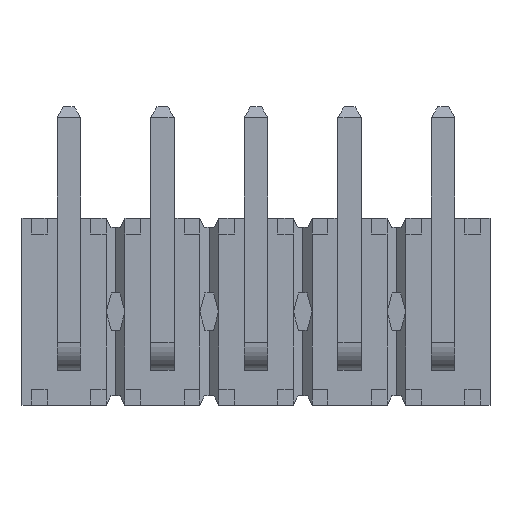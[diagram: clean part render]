
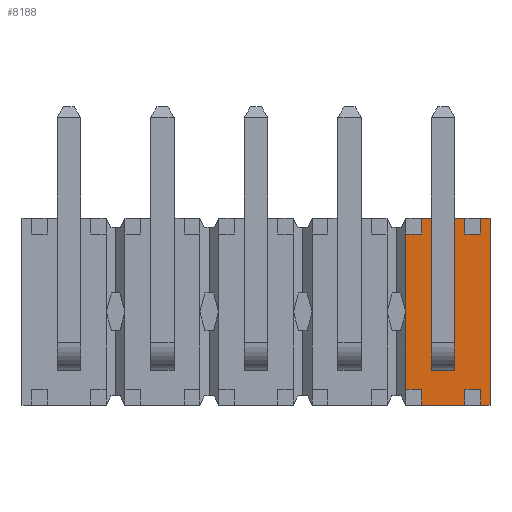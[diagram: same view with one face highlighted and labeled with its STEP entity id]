
A CAD part, front view. The second image highlights one B-rep face of the part: STEP entity #8188.
In plain terms, the highlighted planar face has unit normal (0, -1, 0).
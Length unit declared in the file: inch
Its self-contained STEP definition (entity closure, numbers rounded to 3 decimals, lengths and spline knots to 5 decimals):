
#879=ORIENTED_EDGE('',*,*,#2985,.T.);
#880=ORIENTED_EDGE('',*,*,#2654,.T.);
#881=ORIENTED_EDGE('',*,*,#2816,.T.);
#882=ORIENTED_EDGE('',*,*,#2987,.T.);
#883=ORIENTED_EDGE('',*,*,#2855,.F.);
#884=ORIENTED_EDGE('',*,*,#2650,.T.);
#885=ORIENTED_EDGE('',*,*,#2860,.T.);
#886=ORIENTED_EDGE('',*,*,#2988,.T.);
#887=ORIENTED_EDGE('',*,*,#2564,.F.);
#888=ORIENTED_EDGE('',*,*,#2568,.F.);
#889=ORIENTED_EDGE('',*,*,#2989,.F.);
#890=ORIENTED_EDGE('',*,*,#2861,.T.);
#891=ORIENTED_EDGE('',*,*,#2735,.T.);
#892=ORIENTED_EDGE('',*,*,#2858,.F.);
#893=ORIENTED_EDGE('',*,*,#2990,.F.);
#894=ORIENTED_EDGE('',*,*,#2817,.T.);
#895=ORIENTED_EDGE('',*,*,#2731,.T.);
#896=ORIENTED_EDGE('',*,*,#2963,.F.);
#897=ORIENTED_EDGE('',*,*,#2870,.F.);
#898=ORIENTED_EDGE('',*,*,#2867,.F.);
#899=ORIENTED_EDGE('',*,*,#2864,.F.);
#900=ORIENTED_EDGE('',*,*,#2965,.F.);
#901=ORIENTED_EDGE('',*,*,#2880,.F.);
#902=ORIENTED_EDGE('',*,*,#2877,.F.);
#903=ORIENTED_EDGE('',*,*,#2874,.F.);
#2564=EDGE_CURVE('',#3720,#3721,#4484,.T.);
#2568=EDGE_CURVE('',#3724,#3720,#4488,.T.);
#2650=EDGE_CURVE('',#3791,#3790,#4570,.T.);
#2654=EDGE_CURVE('',#3795,#3794,#4574,.T.);
#2731=EDGE_CURVE('',#3844,#3843,#4651,.T.);
#2735=EDGE_CURVE('',#3848,#3847,#4655,.T.);
#2816=EDGE_CURVE('',#3794,#3891,#4736,.T.);
#2817=EDGE_CURVE('',#3892,#3844,#4737,.T.);
#2855=EDGE_CURVE('',#3791,#3911,#4775,.T.);
#2858=EDGE_CURVE('',#3912,#3847,#4778,.T.);
#2860=EDGE_CURVE('',#3790,#3913,#4780,.T.);
#2861=EDGE_CURVE('',#3914,#3848,#4781,.T.);
#2864=EDGE_CURVE('',#3916,#3917,#4784,.T.);
#2867=EDGE_CURVE('',#3917,#3919,#4787,.T.);
#2870=EDGE_CURVE('',#3919,#3921,#4790,.T.);
#2874=EDGE_CURVE('',#3924,#3925,#4794,.T.);
#2877=EDGE_CURVE('',#3925,#3927,#4797,.T.);
#2880=EDGE_CURVE('',#3927,#3929,#4800,.T.);
#2963=EDGE_CURVE('',#3921,#3916,#4883,.T.);
#2965=EDGE_CURVE('',#3929,#3924,#4885,.T.);
#2985=EDGE_CURVE('',#3843,#3795,#4905,.T.);
#2987=EDGE_CURVE('',#3891,#3911,#4907,.T.);
#2988=EDGE_CURVE('',#3913,#3721,#4908,.T.);
#2989=EDGE_CURVE('',#3914,#3724,#4909,.T.);
#2990=EDGE_CURVE('',#3892,#3912,#4910,.T.);
#3720=VERTEX_POINT('',#11365);
#3721=VERTEX_POINT('',#11367);
#3724=VERTEX_POINT('',#11375);
#3790=VERTEX_POINT('',#11534);
#3791=VERTEX_POINT('',#11536);
#3794=VERTEX_POINT('',#11542);
#3795=VERTEX_POINT('',#11544);
#3843=VERTEX_POINT('',#11676);
#3844=VERTEX_POINT('',#11678);
#3847=VERTEX_POINT('',#11684);
#3848=VERTEX_POINT('',#11686);
#3891=VERTEX_POINT('',#11846);
#3892=VERTEX_POINT('',#11850);
#3911=VERTEX_POINT('',#11926);
#3912=VERTEX_POINT('',#11930);
#3913=VERTEX_POINT('',#11934);
#3914=VERTEX_POINT('',#11938);
#3916=VERTEX_POINT('',#11943);
#3917=VERTEX_POINT('',#11945);
#3919=VERTEX_POINT('',#11951);
#3921=VERTEX_POINT('',#11957);
#3924=VERTEX_POINT('',#11964);
#3925=VERTEX_POINT('',#11966);
#3927=VERTEX_POINT('',#11972);
#3929=VERTEX_POINT('',#11978);
#4484=LINE('',#11366,#5620);
#4488=LINE('',#11374,#5624);
#4570=LINE('',#11535,#5706);
#4574=LINE('',#11543,#5710);
#4651=LINE('',#11677,#5787);
#4655=LINE('',#11685,#5791);
#4736=LINE('',#11847,#5872);
#4737=LINE('',#11849,#5873);
#4775=LINE('',#11925,#5911);
#4778=LINE('',#11931,#5914);
#4780=LINE('',#11935,#5916);
#4781=LINE('',#11937,#5917);
#4784=LINE('',#11944,#5920);
#4787=LINE('',#11950,#5923);
#4790=LINE('',#11956,#5926);
#4794=LINE('',#11965,#5930);
#4797=LINE('',#11971,#5933);
#4800=LINE('',#11977,#5936);
#4883=LINE('',#12151,#6019);
#4885=LINE('',#12154,#6021);
#4905=LINE('',#12184,#6041);
#4907=LINE('',#12192,#6043);
#4908=LINE('',#12193,#6044);
#4909=LINE('',#12194,#6045);
#4910=LINE('',#12195,#6046);
#5620=VECTOR('',#9168,39.37008);
#5624=VECTOR('',#9174,39.37008);
#5706=VECTOR('',#9280,39.37008);
#5710=VECTOR('',#9284,39.37008);
#5787=VECTOR('',#9377,39.37008);
#5791=VECTOR('',#9381,39.37008);
#5872=VECTOR('',#9536,39.37008);
#5873=VECTOR('',#9539,39.37008);
#5911=VECTOR('',#9615,39.37008);
#5914=VECTOR('',#9620,39.37008);
#5916=VECTOR('',#9624,39.37008);
#5917=VECTOR('',#9627,39.37008);
#5920=VECTOR('',#9632,39.37008);
#5923=VECTOR('',#9637,39.37008);
#5926=VECTOR('',#9642,39.37008);
#5930=VECTOR('',#9648,39.37008);
#5933=VECTOR('',#9653,39.37008);
#5936=VECTOR('',#9658,39.37008);
#6019=VECTOR('',#9791,39.37008);
#6021=VECTOR('',#9795,39.37008);
#6041=VECTOR('',#9835,39.37008);
#6043=VECTOR('',#9849,39.37008);
#6044=VECTOR('',#9850,39.37008);
#6045=VECTOR('',#9851,39.37008);
#6046=VECTOR('',#9852,39.37008);
#6794=EDGE_LOOP('',(#879,#880,#881,#882,#883,#884,#885,#886,#887,#888,#889,
#890,#891,#892,#893,#894,#895));
#6795=EDGE_LOOP('',(#896,#897,#898,#899));
#6796=EDGE_LOOP('',(#900,#901,#902,#903));
#7282=FACE_BOUND('',#6794,.T.);
#7283=FACE_BOUND('',#6795,.T.);
#7284=FACE_BOUND('',#6796,.T.);
#7760=PLANE('',#8662);
#8188=ADVANCED_FACE('',(#7282,#7283,#7284),#7760,.T.);
#8662=AXIS2_PLACEMENT_3D('',#12191,#9847,#9848);
#9168=DIRECTION('',(0.,0.,1.));
#9174=DIRECTION('',(0.,0.,1.));
#9280=DIRECTION('',(-1.,0.,0.));
#9284=DIRECTION('',(-1.,0.,0.));
#9377=DIRECTION('',(1.,0.,0.));
#9381=DIRECTION('',(1.,0.,0.));
#9536=DIRECTION('',(0.,0.,-1.));
#9539=DIRECTION('',(0.,0.,-1.));
#9615=DIRECTION('',(0.,0.,-1.));
#9620=DIRECTION('',(0.,0.,-1.));
#9624=DIRECTION('',(0.,0.,-1.));
#9627=DIRECTION('',(0.,0.,-1.));
#9632=DIRECTION('',(1.,0.,0.));
#9637=DIRECTION('',(0.,0.,1.));
#9642=DIRECTION('',(-1.,0.,0.));
#9648=DIRECTION('',(1.,0.,0.));
#9653=DIRECTION('',(0.,0.,1.));
#9658=DIRECTION('',(-1.,0.,0.));
#9791=DIRECTION('',(0.,0.,-1.));
#9795=DIRECTION('',(0.,0.,-1.));
#9835=DIRECTION('',(0.,0.,1.));
#9847=DIRECTION('',(0.,-1.,0.));
#9848=DIRECTION('',(0.,0.,-1.));
#9849=DIRECTION('',(-1.,0.,0.));
#9850=DIRECTION('',(-1.,0.,0.));
#9851=DIRECTION('',(-1.,0.,0.));
#9852=DIRECTION('',(-1.,0.,0.));
#11365=CARTESIAN_POINT('',(0.16,0.02,0.));
#11366=CARTESIAN_POINT('',(0.16,0.02,0.5));
#11367=CARTESIAN_POINT('',(0.16,0.02,0.083));
#11374=CARTESIAN_POINT('',(0.16,0.02,0.5));
#11375=CARTESIAN_POINT('',(0.16,0.02,-0.083));
#11534=CARTESIAN_POINT('',(0.17688,0.02,0.1));
#11535=CARTESIAN_POINT('',(-0.25,0.02,0.1));
#11536=CARTESIAN_POINT('',(0.22312,0.02,0.1));
#11542=CARTESIAN_POINT('',(0.24012,0.02,0.1));
#11543=CARTESIAN_POINT('',(-0.25,0.02,0.1));
#11544=CARTESIAN_POINT('',(0.25,0.02,0.1));
#11676=CARTESIAN_POINT('',(0.25,0.02,-0.1));
#11677=CARTESIAN_POINT('',(0.25,0.02,-0.1));
#11678=CARTESIAN_POINT('',(0.24012,0.02,-0.1));
#11684=CARTESIAN_POINT('',(0.22312,0.02,-0.1));
#11685=CARTESIAN_POINT('',(0.25,0.02,-0.1));
#11686=CARTESIAN_POINT('',(0.17688,0.02,-0.1));
#11846=CARTESIAN_POINT('',(0.24012,0.02,0.083));
#11847=CARTESIAN_POINT('',(0.24012,0.02,0.2));
#11849=CARTESIAN_POINT('',(0.24012,0.02,0.2));
#11850=CARTESIAN_POINT('',(0.24012,0.02,-0.083));
#11925=CARTESIAN_POINT('',(0.22312,0.02,0.2));
#11926=CARTESIAN_POINT('',(0.22312,0.02,0.083));
#11930=CARTESIAN_POINT('',(0.22312,0.02,-0.083));
#11931=CARTESIAN_POINT('',(0.22312,0.02,0.2));
#11934=CARTESIAN_POINT('',(0.17688,0.02,0.083));
#11935=CARTESIAN_POINT('',(0.17688,0.02,0.2));
#11937=CARTESIAN_POINT('',(0.17688,0.02,0.2));
#11938=CARTESIAN_POINT('',(0.17688,0.02,-0.083));
#11943=CARTESIAN_POINT('',(0.1875,0.02,0.0375));
#11944=CARTESIAN_POINT('',(0.2125,0.02,0.0375));
#11945=CARTESIAN_POINT('',(0.2125,0.02,0.0375));
#11950=CARTESIAN_POINT('',(0.2125,0.02,0.0625));
#11951=CARTESIAN_POINT('',(0.2125,0.02,0.0625));
#11956=CARTESIAN_POINT('',(0.1875,0.02,0.0625));
#11957=CARTESIAN_POINT('',(0.1875,0.02,0.0625));
#11964=CARTESIAN_POINT('',(0.1875,0.02,-0.0625));
#11965=CARTESIAN_POINT('',(0.2125,0.02,-0.0625));
#11966=CARTESIAN_POINT('',(0.2125,0.02,-0.0625));
#11971=CARTESIAN_POINT('',(0.2125,0.02,-0.0375));
#11972=CARTESIAN_POINT('',(0.2125,0.02,-0.0375));
#11977=CARTESIAN_POINT('',(0.1875,0.02,-0.0375));
#11978=CARTESIAN_POINT('',(0.1875,0.02,-0.0375));
#12151=CARTESIAN_POINT('',(0.1875,0.02,0.0375));
#12154=CARTESIAN_POINT('',(0.1875,0.02,-0.0625));
#12184=CARTESIAN_POINT('',(0.25,0.02,0.1));
#12191=CARTESIAN_POINT('',(0.28637,0.02,0.2));
#12192=CARTESIAN_POINT('',(0.5,0.02,0.083));
#12193=CARTESIAN_POINT('',(0.5,0.02,0.083));
#12194=CARTESIAN_POINT('',(0.5,0.02,-0.083));
#12195=CARTESIAN_POINT('',(0.5,0.02,-0.083));
